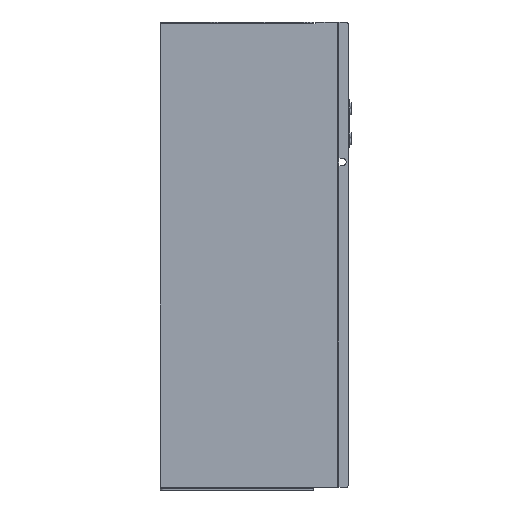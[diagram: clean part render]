
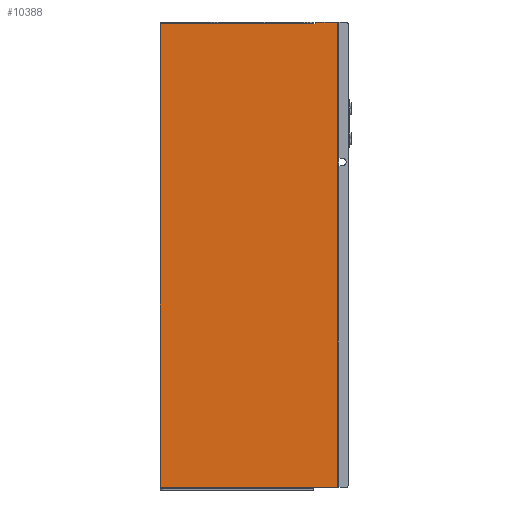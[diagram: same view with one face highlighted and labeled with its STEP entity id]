
A CAD part, left-side view. The second image highlights one B-rep face of the part: STEP entity #10388.
In plain terms, the highlighted planar face has unit normal (-1, 0, 0).
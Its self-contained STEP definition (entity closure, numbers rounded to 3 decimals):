
#99 = ORIENTED_EDGE ( 'NONE', *, *, #12732, .T. ) ;
#120 = CARTESIAN_POINT ( 'NONE',  ( 0., 20.3, 193.7 ) ) ;
#287 = DIRECTION ( 'NONE',  ( 0., 0., 1. ) ) ;
#448 = EDGE_CURVE ( 'NONE', #9324, #8925, #1408, .T. ) ;
#535 = AXIS2_PLACEMENT_3D ( 'NONE', #120, #9428, #1495 ) ;
#814 = VECTOR ( 'NONE', #4880, 1000. ) ;
#894 = AXIS2_PLACEMENT_3D ( 'NONE', #5343, #14619, #6682 ) ;
#1408 = LINE ( 'NONE', #14771, #4538 ) ;
#1495 = DIRECTION ( 'NONE',  ( 0., 0., -1. ) ) ;
#1770 = CARTESIAN_POINT ( 'NONE',  ( 0., 18.7, 193.5 ) ) ;
#2046 = VECTOR ( 'NONE', #287, 1000. ) ;
#2160 = VERTEX_POINT ( 'NONE', #7752 ) ;
#2435 = VERTEX_POINT ( 'NONE', #1770 ) ;
#2743 = LINE ( 'NONE', #9884, #16823 ) ;
#3553 = EDGE_CURVE ( 'NONE', #13653, #8358, #10727, .T. ) ;
#3678 = LINE ( 'NONE', #14713, #10310 ) ;
#3811 = CARTESIAN_POINT ( 'NONE',  ( 0., 0., 195. ) ) ;
#4043 = CARTESIAN_POINT ( 'NONE',  ( 0., 0., 193.8 ) ) ;
#4044 = CIRCLE ( 'NONE', #15217, 0.2 ) ;
#4275 = LINE ( 'NONE', #6859, #7392 ) ;
#4538 = VECTOR ( 'NONE', #14596, 1000. ) ;
#4712 = PLANE ( 'NONE',  #7829 ) ;
#4880 = DIRECTION ( 'NONE',  ( 0., 0., -1. ) ) ;
#5276 = CARTESIAN_POINT ( 'NONE',  ( 0., 20.5, 193.8 ) ) ;
#5343 = CARTESIAN_POINT ( 'NONE',  ( 0., 18.3, 194.8 ) ) ;
#5390 = DIRECTION ( 'NONE',  ( 0., -1., 0. ) ) ;
#5425 = VERTEX_POINT ( 'NONE', #16123 ) ;
#5441 = EDGE_CURVE ( 'NONE', #12828, #5425, #4275, .T. ) ;
#5705 = EDGE_CURVE ( 'NONE', #2435, #8925, #4044, .T. ) ;
#6049 = DIRECTION ( 'NONE',  ( -1., 0., 0. ) ) ;
#6228 = VERTEX_POINT ( 'NONE', #16686 ) ;
#6615 = LINE ( 'NONE', #4043, #16773 ) ;
#6682 = DIRECTION ( 'NONE',  ( 0., 0., -1. ) ) ;
#6778 = FACE_OUTER_BOUND ( 'NONE', #8692, .T. ) ;
#6795 = CARTESIAN_POINT ( 'NONE',  ( 0., 20.5, 193.7 ) ) ;
#6859 = CARTESIAN_POINT ( 'NONE',  ( 0., 148., 195. ) ) ;
#6900 = CARTESIAN_POINT ( 'NONE',  ( 0., 148., 193.8 ) ) ;
#6950 = CARTESIAN_POINT ( 'NONE',  ( 0., 0., 195. ) ) ;
#7122 = EDGE_CURVE ( 'NONE', #5425, #2160, #2743, .T. ) ;
#7392 = VECTOR ( 'NONE', #8198, 1000. ) ;
#7479 = LINE ( 'NONE', #12829, #814 ) ;
#7547 = VECTOR ( 'NONE', #13224, 1000. ) ;
#7678 = ORIENTED_EDGE ( 'NONE', *, *, #9190, .T. ) ;
#7706 = ORIENTED_EDGE ( 'NONE', *, *, #3553, .T. ) ;
#7752 = CARTESIAN_POINT ( 'NONE',  ( 0., 0., -194. ) ) ;
#7824 = ORIENTED_EDGE ( 'NONE', *, *, #8840, .F. ) ;
#7829 = AXIS2_PLACEMENT_3D ( 'NONE', #12671, #6049, #15324 ) ;
#7876 = DIRECTION ( 'NONE',  ( -1., 0., 0. ) ) ;
#7947 = LINE ( 'NONE', #11872, #7547 ) ;
#8146 = EDGE_CURVE ( 'NONE', #14459, #8358, #7479, .T. ) ;
#8198 = DIRECTION ( 'NONE',  ( 0., 0., -1. ) ) ;
#8312 = ORIENTED_EDGE ( 'NONE', *, *, #12249, .F. ) ;
#8358 = VERTEX_POINT ( 'NONE', #6795 ) ;
#8692 = EDGE_LOOP ( 'NONE', ( #7706, #12545, #7824, #10498, #14159, #7678, #13673, #8312, #16798, #10214, #99 ) ) ;
#8840 = EDGE_CURVE ( 'NONE', #12828, #14459, #6615, .T. ) ;
#8925 = VERTEX_POINT ( 'NONE', #14834 ) ;
#9171 = CIRCLE ( 'NONE', #894, 0.2 ) ;
#9190 = EDGE_CURVE ( 'NONE', #2160, #10548, #16140, .T. ) ;
#9324 = VERTEX_POINT ( 'NONE', #15042 ) ;
#9428 = DIRECTION ( 'NONE',  ( 1., 0., 0. ) ) ;
#9655 = EDGE_CURVE ( 'NONE', #6228, #10548, #3678, .T. ) ;
#9884 = CARTESIAN_POINT ( 'NONE',  ( 0., 20.5, -194. ) ) ;
#10214 = ORIENTED_EDGE ( 'NONE', *, *, #5705, .F. ) ;
#10310 = VECTOR ( 'NONE', #16044, 1000. ) ;
#10388 = ADVANCED_FACE ( 'NONE', ( #6778 ), #4712, .T. ) ;
#10498 = ORIENTED_EDGE ( 'NONE', *, *, #5441, .T. ) ;
#10548 = VERTEX_POINT ( 'NONE', #3811 ) ;
#10727 = CIRCLE ( 'NONE', #535, 0.2 ) ;
#10944 = CARTESIAN_POINT ( 'NONE',  ( 0., 20.3, 193.5 ) ) ;
#11872 = CARTESIAN_POINT ( 'NONE',  ( 0., 20.5, 193.5 ) ) ;
#12249 = EDGE_CURVE ( 'NONE', #9324, #6228, #9171, .T. ) ;
#12529 = DIRECTION ( 'NONE',  ( 0., -1., 0. ) ) ;
#12545 = ORIENTED_EDGE ( 'NONE', *, *, #8146, .F. ) ;
#12671 = CARTESIAN_POINT ( 'NONE',  ( 0., 0., 195. ) ) ;
#12732 = EDGE_CURVE ( 'NONE', #2435, #13653, #7947, .T. ) ;
#12828 = VERTEX_POINT ( 'NONE', #6900 ) ;
#12829 = CARTESIAN_POINT ( 'NONE',  ( 0., 20.5, 193.8 ) ) ;
#13224 = DIRECTION ( 'NONE',  ( 0., 1., 0. ) ) ;
#13653 = VERTEX_POINT ( 'NONE', #10944 ) ;
#13673 = ORIENTED_EDGE ( 'NONE', *, *, #9655, .F. ) ;
#14159 = ORIENTED_EDGE ( 'NONE', *, *, #7122, .T. ) ;
#14459 = VERTEX_POINT ( 'NONE', #5276 ) ;
#14596 = DIRECTION ( 'NONE',  ( 0., 0., -1. ) ) ;
#14619 = DIRECTION ( 'NONE',  ( 1., 0., 0. ) ) ;
#14713 = CARTESIAN_POINT ( 'NONE',  ( 0., 0., 195. ) ) ;
#14771 = CARTESIAN_POINT ( 'NONE',  ( 0., 18.5, 195. ) ) ;
#14834 = CARTESIAN_POINT ( 'NONE',  ( 0., 18.5, 193.7 ) ) ;
#15042 = CARTESIAN_POINT ( 'NONE',  ( 0., 18.5, 194.8 ) ) ;
#15217 = AXIS2_PLACEMENT_3D ( 'NONE', #15813, #7876, #17126 ) ;
#15324 = DIRECTION ( 'NONE',  ( 0., 0., -1. ) ) ;
#15813 = CARTESIAN_POINT ( 'NONE',  ( 0., 18.7, 193.7 ) ) ;
#16044 = DIRECTION ( 'NONE',  ( 0., -1., 0. ) ) ;
#16123 = CARTESIAN_POINT ( 'NONE',  ( 0., 148., -194. ) ) ;
#16140 = LINE ( 'NONE', #6950, #2046 ) ;
#16686 = CARTESIAN_POINT ( 'NONE',  ( 0., 18.3, 195. ) ) ;
#16773 = VECTOR ( 'NONE', #5390, 1000. ) ;
#16798 = ORIENTED_EDGE ( 'NONE', *, *, #448, .T. ) ;
#16823 = VECTOR ( 'NONE', #12529, 1000. ) ;
#17126 = DIRECTION ( 'NONE',  ( 0., 0., -1. ) ) ;
